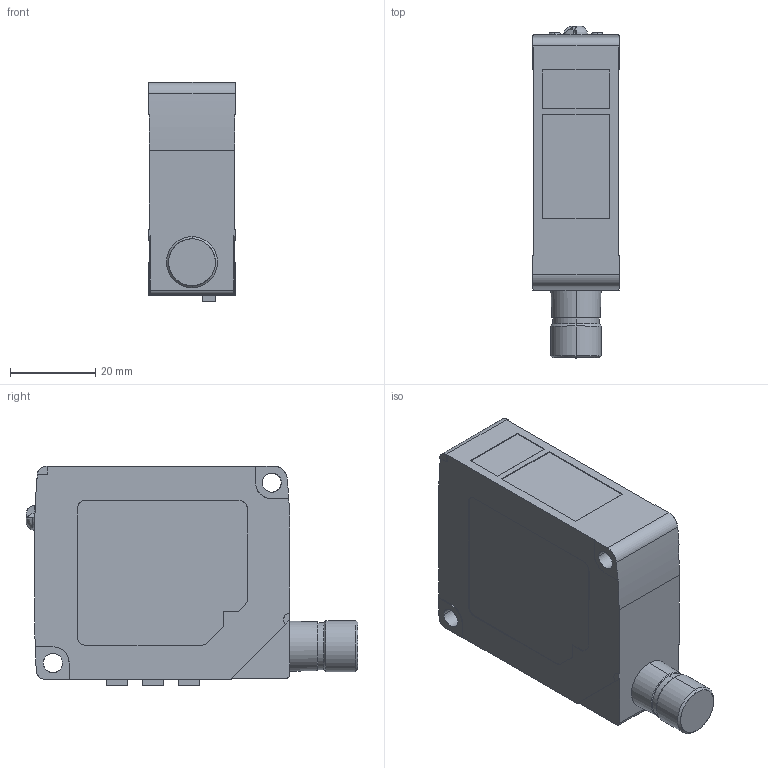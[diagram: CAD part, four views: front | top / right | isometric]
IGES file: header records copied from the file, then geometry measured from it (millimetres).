
Global section: file name: CD3_Con.igs; native system: OneSpace Designer 3D IGES; preprocessor: 11.60D  09-Mar-2003; date: 20070828.130213; units: millimetre
Bounding box: 20.4 x 77.95 x 51.5 mm (x, y, z)
Surface area: 11650.4 mm2 (no closed solid volume)
Topology: 0 solids, 0 shells, 124 faces, 1066 edges, 1064 vertices
Faces by surface type: bspline 110, revolution 14
